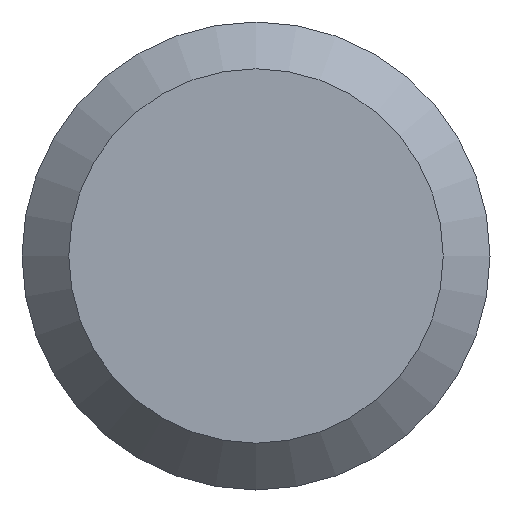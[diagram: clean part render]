
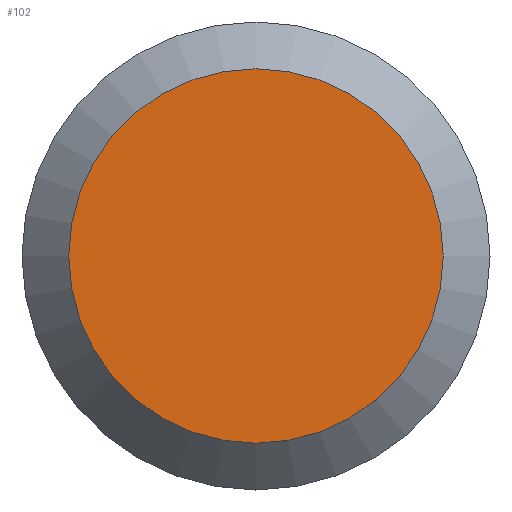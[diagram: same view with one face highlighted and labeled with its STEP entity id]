
A CAD part, left-side view. The second image highlights one B-rep face of the part: STEP entity #102.
In plain terms, the highlighted planar face has unit normal (-1, 0, 0).
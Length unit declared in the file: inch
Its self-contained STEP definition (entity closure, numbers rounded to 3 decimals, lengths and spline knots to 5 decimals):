
#2 = FACE_OUTER_BOUND ( 'NONE', #245, .T. ) ;
#5 = DIRECTION ( 'NONE',  ( 0., 0., -1. ) ) ;
#6 = AXIS2_PLACEMENT_3D ( 'NONE', #41, #138, #131 ) ;
#22 = ORIENTED_EDGE ( 'NONE', *, *, #95, .T. ) ;
#41 = CARTESIAN_POINT ( 'NONE',  ( 0., 0.1305, 0. ) ) ;
#89 = DIRECTION ( 'NONE',  ( -1., 0., 0. ) ) ;
#95 = EDGE_CURVE ( 'NONE', #99, #99, #214, .T. ) ;
#99 = VERTEX_POINT ( 'NONE', #222 ) ;
#102 = ADVANCED_FACE ( 'NONE', ( #2 ), #216, .F. ) ;
#131 = DIRECTION ( 'NONE',  ( 0., 0., -1. ) ) ;
#138 = DIRECTION ( 'NONE',  ( 1., 0., 0. ) ) ;
#143 = CARTESIAN_POINT ( 'NONE',  ( 0., 0., 0. ) ) ;
#157 = AXIS2_PLACEMENT_3D ( 'NONE', #143, #89, #5 ) ;
#214 = CIRCLE ( 'NONE', #157, 0.1044 ) ;
#216 = PLANE ( 'NONE',  #6 ) ;
#222 = CARTESIAN_POINT ( 'NONE',  ( 0., 0., -0.1044 ) ) ;
#245 = EDGE_LOOP ( 'NONE', ( #22 ) ) ;
